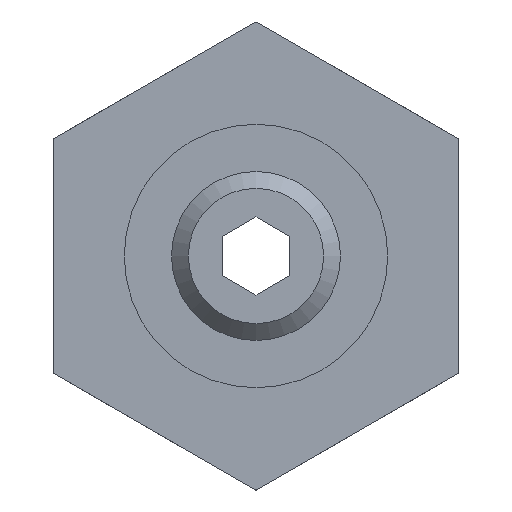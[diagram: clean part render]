
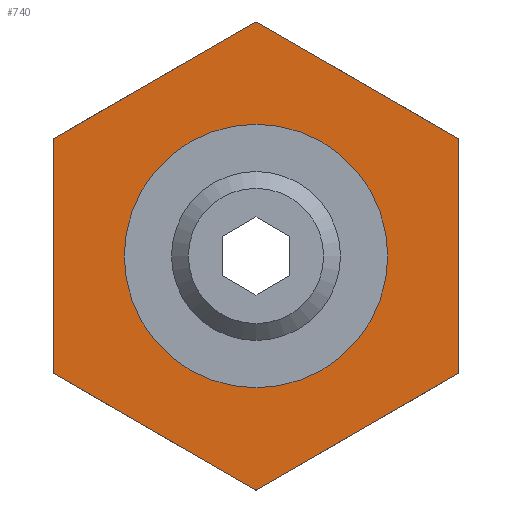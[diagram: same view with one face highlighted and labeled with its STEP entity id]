
A CAD part, front view. The second image highlights one B-rep face of the part: STEP entity #740.
In plain terms, the highlighted planar face has unit normal (0, -1, 0).
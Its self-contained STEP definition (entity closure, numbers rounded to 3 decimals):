
#386=CARTESIAN_POINT('',(6.,-16.0,3.458));
#387=VERTEX_POINT('',#386);
#394=CARTESIAN_POINT('',(6.,-16.0,-3.458));
#395=VERTEX_POINT('',#394);
#396=CARTESIAN_POINT('',(6.,-16.0,-3.458));
#397=DIRECTION('',(0.0,0.0,1.0));
#398=VECTOR('',#397,6.915);
#399=LINE('',#396,#398);
#400=EDGE_CURVE('',#395,#387,#399,.T.);
#433=CARTESIAN_POINT('',(5.994,-16.0,-3.467));
#434=VERTEX_POINT('',#433);
#441=CARTESIAN_POINT('',(0.006,-16.0,-6.925));
#442=VERTEX_POINT('',#441);
#443=CARTESIAN_POINT('',(0.006,-16.0,-6.925));
#444=DIRECTION('',(0.866,0.0,0.5));
#445=VECTOR('',#444,6.915);
#446=LINE('',#443,#445);
#447=EDGE_CURVE('',#442,#434,#446,.T.);
#480=CARTESIAN_POINT('',(-0.006,-16.0,-6.925));
#481=VERTEX_POINT('',#480);
#488=CARTESIAN_POINT('',(-5.994,-16.0,-3.467));
#489=VERTEX_POINT('',#488);
#490=CARTESIAN_POINT('',(-5.994,-16.0,-3.467));
#491=DIRECTION('',(0.866,0.0,-0.5));
#492=VECTOR('',#491,6.915);
#493=LINE('',#490,#492);
#494=EDGE_CURVE('',#489,#481,#493,.T.);
#527=CARTESIAN_POINT('',(-6.,-16.0,-3.458));
#528=VERTEX_POINT('',#527);
#535=CARTESIAN_POINT('',(-6.,-16.0,3.458));
#536=VERTEX_POINT('',#535);
#537=CARTESIAN_POINT('',(-6.,-16.0,3.458));
#538=DIRECTION('',(0.0,0.0,-1.0));
#539=VECTOR('',#538,6.915);
#540=LINE('',#537,#539);
#541=EDGE_CURVE('',#536,#528,#540,.T.);
#574=CARTESIAN_POINT('',(-5.994,-16.0,3.467));
#575=VERTEX_POINT('',#574);
#582=CARTESIAN_POINT('',(-0.006,-16.0,6.925));
#583=VERTEX_POINT('',#582);
#584=CARTESIAN_POINT('',(-0.006,-16.0,6.925));
#585=DIRECTION('',(-0.866,0.0,-0.5));
#586=VECTOR('',#585,6.915);
#587=LINE('',#584,#586);
#588=EDGE_CURVE('',#583,#575,#587,.T.);
#621=CARTESIAN_POINT('',(0.006,-16.0,6.925));
#622=VERTEX_POINT('',#621);
#629=CARTESIAN_POINT('',(5.994,-16.0,3.467));
#630=VERTEX_POINT('',#629);
#631=CARTESIAN_POINT('',(5.994,-16.0,3.467));
#632=DIRECTION('',(-0.866,0.0,0.5));
#633=VECTOR('',#632,6.915);
#634=LINE('',#631,#633);
#635=EDGE_CURVE('',#630,#622,#634,.T.);
#674=CARTESIAN_POINT('',(5.413,-16.0,0.0));
#675=DIRECTION('',(0.0,-1.0,0.0));
#676=DIRECTION('',(0.0,0.0,-1.0));
#677=AXIS2_PLACEMENT_3D('',#674,#675,#676);
#678=PLANE('',#677);
#679=ORIENTED_EDGE('',*,*,#400,.T.);
#680=CARTESIAN_POINT('',(0.0,-16.0,0.0));
#681=DIRECTION('',(0.0,-1.0,0.0));
#682=DIRECTION('',(1.0,0.0,0.0));
#683=AXIS2_PLACEMENT_3D('',#680,#681,#682);
#684=CIRCLE('',#683,6.925);
#685=EDGE_CURVE('',#387,#630,#684,.T.);
#686=ORIENTED_EDGE('',*,*,#685,.T.);
#687=ORIENTED_EDGE('',*,*,#635,.T.);
#688=CARTESIAN_POINT('',(0.0,-16.0,0.0));
#689=DIRECTION('',(0.0,-1.0,0.0));
#690=DIRECTION('',(1.0,0.0,0.0));
#691=AXIS2_PLACEMENT_3D('',#688,#689,#690);
#692=CIRCLE('',#691,6.925);
#693=EDGE_CURVE('',#622,#583,#692,.T.);
#694=ORIENTED_EDGE('',*,*,#693,.T.);
#695=ORIENTED_EDGE('',*,*,#588,.T.);
#696=CARTESIAN_POINT('',(0.0,-16.0,0.0));
#697=DIRECTION('',(0.0,-1.0,0.0));
#698=DIRECTION('',(1.0,0.0,0.0));
#699=AXIS2_PLACEMENT_3D('',#696,#697,#698);
#700=CIRCLE('',#699,6.925);
#701=EDGE_CURVE('',#575,#536,#700,.T.);
#702=ORIENTED_EDGE('',*,*,#701,.T.);
#703=ORIENTED_EDGE('',*,*,#541,.T.);
#704=CARTESIAN_POINT('',(0.0,-16.0,0.0));
#705=DIRECTION('',(0.0,-1.0,0.0));
#706=DIRECTION('',(1.0,0.0,0.0));
#707=AXIS2_PLACEMENT_3D('',#704,#705,#706);
#708=CIRCLE('',#707,6.925);
#709=EDGE_CURVE('',#528,#489,#708,.T.);
#710=ORIENTED_EDGE('',*,*,#709,.T.);
#711=ORIENTED_EDGE('',*,*,#494,.T.);
#712=CARTESIAN_POINT('',(0.0,-16.0,0.0));
#713=DIRECTION('',(0.0,-1.0,0.0));
#714=DIRECTION('',(1.0,0.0,0.0));
#715=AXIS2_PLACEMENT_3D('',#712,#713,#714);
#716=CIRCLE('',#715,6.925);
#717=EDGE_CURVE('',#481,#442,#716,.T.);
#718=ORIENTED_EDGE('',*,*,#717,.T.);
#719=ORIENTED_EDGE('',*,*,#447,.T.);
#720=CARTESIAN_POINT('',(0.0,-16.0,0.0));
#721=DIRECTION('',(0.0,-1.0,0.0));
#722=DIRECTION('',(1.0,0.0,0.0));
#723=AXIS2_PLACEMENT_3D('',#720,#721,#722);
#724=CIRCLE('',#723,6.925);
#725=EDGE_CURVE('',#434,#395,#724,.T.);
#726=ORIENTED_EDGE('',*,*,#725,.T.);
#727=EDGE_LOOP('',(#679,#686,#687,#694,#695,#702,#703,#710,#711,#718,#719,#726));
#728=FACE_OUTER_BOUND('',#727,.T.);
#729=CARTESIAN_POINT('',(3.9,-16.0,0.0));
#730=VERTEX_POINT('',#729);
#731=CARTESIAN_POINT('',(0.0,-16.0,0.0));
#732=DIRECTION('',(0.0,-1.0,0.0));
#733=DIRECTION('',(1.0,0.0,0.0));
#734=AXIS2_PLACEMENT_3D('',#731,#732,#733);
#735=CIRCLE('',#734,3.9);
#736=EDGE_CURVE('',#730,#730,#735,.T.);
#737=ORIENTED_EDGE('',*,*,#736,.F.);
#738=EDGE_LOOP('',(#737));
#739=FACE_BOUND('',#738,.T.);
#740=ADVANCED_FACE('',(#728,#739),#678,.T.);
